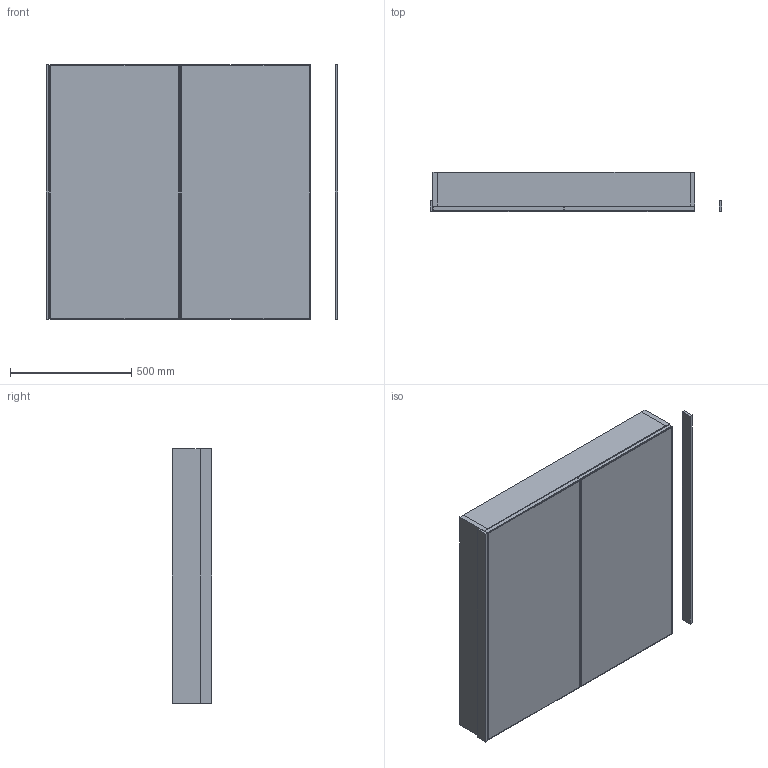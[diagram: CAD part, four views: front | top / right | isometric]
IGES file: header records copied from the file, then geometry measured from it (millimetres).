
Start section: Data from Parasolid IGES Translator 19.0.9, Copyright(c) 2006 Siemens PL M Software. All Rights Reserved.
Global section: file name: noorth-mirror-H 105 D 4,5-16 W 108_9141.igs; native system: By Siemens PLM Incorporated; preprocessor: XPlus GENERIC/IGES 19.0.9; author: Noname; organization: Noname; date: 20200519.111925; units: metre
Bounding box: 1203.82 x 162 x 1050 mm (x, y, z)
Volume: 39765927.7 mm3; surface area: 9217685 mm2
Topology: 15 solids, 15 shells, 194 faces, 372 edges, 208 vertices
Faces by surface type: plane 194
